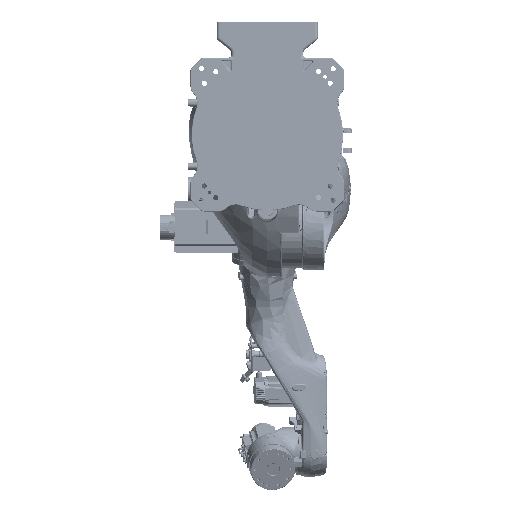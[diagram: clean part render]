
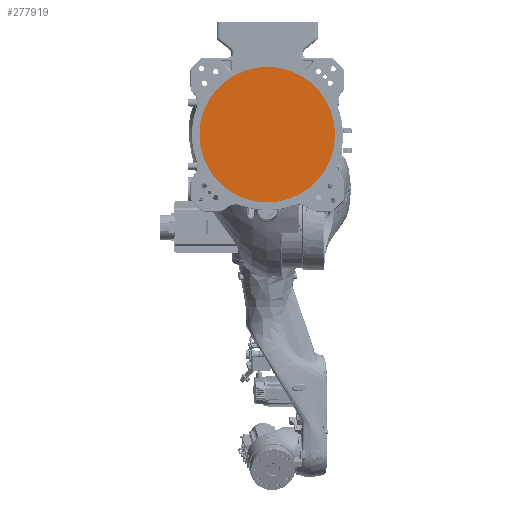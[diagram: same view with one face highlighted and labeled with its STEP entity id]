
A CAD part, front view. The second image highlights one B-rep face of the part: STEP entity #277919.
In plain terms, the highlighted planar face has unit normal (0, -1, 0).
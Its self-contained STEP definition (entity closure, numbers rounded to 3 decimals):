
#106571 = DIRECTION ( 'NONE',  ( 0., 0., -1. ) ) ;
#173465 = DIRECTION ( 'NONE',  ( 0., 1., 0. ) ) ;
#199273 = CARTESIAN_POINT ( 'NONE',  ( 0., 4., 234.901 ) ) ;
#238209 = AXIS2_PLACEMENT_3D ( 'NONE', #262863, #631985, #106571 ) ;
#242735 = ORIENTED_EDGE ( 'NONE', *, *, #495614, .F. ) ;
#258722 = CARTESIAN_POINT ( 'NONE',  ( 0., 4., 0. ) ) ;
#262863 = CARTESIAN_POINT ( 'NONE',  ( 0., 4., 0. ) ) ;
#277919 = ADVANCED_FACE ( 'NONE', ( #289046 ), #403789, .F. ) ;
#289046 = FACE_OUTER_BOUND ( 'NONE', #473038, .T. ) ;
#319942 = CARTESIAN_POINT ( 'NONE',  ( 0., 4., -234.901 ) ) ;
#373534 = CIRCLE ( 'NONE', #451254, 234.901 ) ;
#403789 = PLANE ( 'NONE',  #440070 ) ;
#440070 = AXIS2_PLACEMENT_3D ( 'NONE', #258722, #560147, #562378 ) ;
#447896 = ORIENTED_EDGE ( 'NONE', *, *, #598114, .F. ) ;
#451254 = AXIS2_PLACEMENT_3D ( 'NONE', #542631, #173465, #535906 ) ;
#473038 = EDGE_LOOP ( 'NONE', ( #242735, #447896 ) ) ;
#495614 = EDGE_CURVE ( 'NONE', #565531, #497709, #621075, .T. ) ;
#497709 = VERTEX_POINT ( 'NONE', #199273 ) ;
#535906 = DIRECTION ( 'NONE',  ( 0., 0., -1. ) ) ;
#542631 = CARTESIAN_POINT ( 'NONE',  ( 0., 4., 0. ) ) ;
#560147 = DIRECTION ( 'NONE',  ( 0., 1., 0. ) ) ;
#562378 = DIRECTION ( 'NONE',  ( 0., 0., -1. ) ) ;
#565531 = VERTEX_POINT ( 'NONE', #319942 ) ;
#598114 = EDGE_CURVE ( 'NONE', #497709, #565531, #373534, .T. ) ;
#621075 = CIRCLE ( 'NONE', #238209, 234.901 ) ;
#631985 = DIRECTION ( 'NONE',  ( 0., 1., 0. ) ) ;
